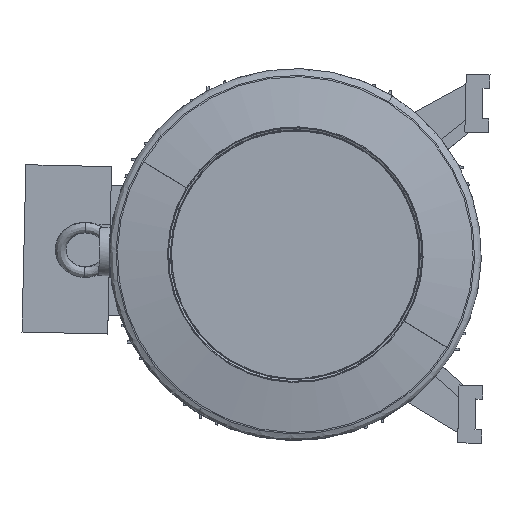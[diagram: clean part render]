
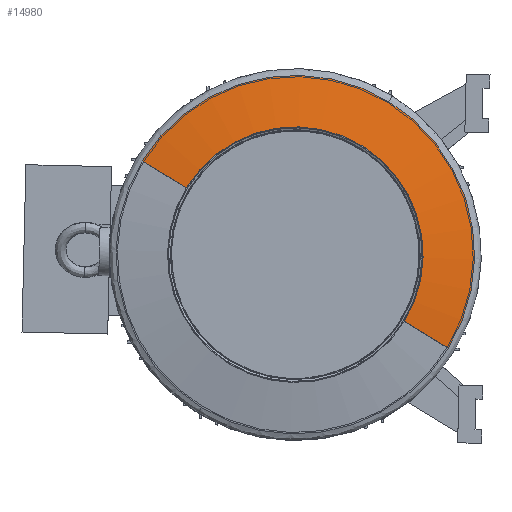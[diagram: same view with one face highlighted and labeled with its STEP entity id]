
A CAD part, left-side view. The second image highlights one B-rep face of the part: STEP entity #14980.
In plain terms, the highlighted conical face has half-angle 80 degrees and reference radius 263.584 mm.
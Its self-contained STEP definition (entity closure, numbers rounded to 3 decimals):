
#3201 = EDGE_LOOP ( 'NONE', ( #11418, #11409, #11391, #11342, #11343, #11368 ) ) ;
#4585 = DIRECTION ( 'NONE',  ( -1., 0., 0. ) ) ;
#4590 = DIRECTION ( 'NONE',  ( 0., -1., 0. ) ) ;
#4608 = CARTESIAN_POINT ( 'NONE',  ( 234.595, 0., 0. ) ) ;
#7510 = AXIS2_PLACEMENT_3D ( 'NONE', #19266, #19268, #19269 ) ;
#7511 = AXIS2_PLACEMENT_3D ( 'NONE', #19270, #19271, #19272 ) ;
#10842 = VECTOR ( 'NONE', #18620, 1000. ) ;
#10852 = LINE ( 'NONE', #18618, #10842 ) ;
#10888 = CIRCLE ( 'NONE', #7510, 187.56 ) ;
#10896 = LINE ( 'NONE', #19007, #10898 ) ;
#10898 = VECTOR ( 'NONE', #19215, 1000. ) ;
#10929 = CIRCLE ( 'NONE', #7511, 263.584 ) ;
#11342 = ORIENTED_EDGE ( 'NONE', *, *, #19491, .F. ) ;
#11343 = ORIENTED_EDGE ( 'NONE', *, *, #22463, .F. ) ;
#11368 = ORIENTED_EDGE ( 'NONE', *, *, #19434, .F. ) ;
#11391 = ORIENTED_EDGE ( 'NONE', *, *, #19465, .T. ) ;
#11409 = ORIENTED_EDGE ( 'NONE', *, *, #19489, .T. ) ;
#11418 = ORIENTED_EDGE ( 'NONE', *, *, #22392, .T. ) ;
#12632 = AXIS2_PLACEMENT_3D ( 'NONE', #25356, #25322, #25313 ) ;
#12638 = AXIS2_PLACEMENT_3D ( 'NONE', #25010, #24992, #24989 ) ;
#14980 = ADVANCED_FACE ( 'NONE', ( #20746 ), #20708, .T. ) ;
#17483 = CIRCLE ( 'NONE', #12638, 187.56 ) ;
#17526 = VERTEX_POINT ( 'NONE', #18275 ) ;
#17589 = VERTEX_POINT ( 'NONE', #18317 ) ;
#17606 = VERTEX_POINT ( 'NONE', #18304 ) ;
#17626 = VERTEX_POINT ( 'NONE', #18341 ) ;
#17629 = VERTEX_POINT ( 'NONE', #18332 ) ;
#17633 = VERTEX_POINT ( 'NONE', #18336 ) ;
#17819 = CIRCLE ( 'NONE', #12632, 263.584 ) ;
#18275 = CARTESIAN_POINT ( 'NONE',  ( 234.595, -263.584, 0. ) ) ;
#18304 = CARTESIAN_POINT ( 'NONE',  ( 248., -187.56, 0. ) ) ;
#18317 = CARTESIAN_POINT ( 'NONE',  ( 234.595, 0., 263.584 ) ) ;
#18332 = CARTESIAN_POINT ( 'NONE',  ( 248., 187.56, 0. ) ) ;
#18336 = CARTESIAN_POINT ( 'NONE',  ( 234.595, 263.584, 0. ) ) ;
#18341 = CARTESIAN_POINT ( 'NONE',  ( 248., 0., 187.56 ) ) ;
#18618 = CARTESIAN_POINT ( 'NONE',  ( 234.595, -263.584, 0. ) ) ;
#18620 = DIRECTION ( 'NONE',  ( -0.174, -0.985, 0. ) ) ;
#19007 = CARTESIAN_POINT ( 'NONE',  ( 234.595, 263.584, 0. ) ) ;
#19215 = DIRECTION ( 'NONE',  ( -0.174, 0.985, 0. ) ) ;
#19266 = CARTESIAN_POINT ( 'NONE',  ( 248., 0., 0. ) ) ;
#19268 = DIRECTION ( 'NONE',  ( -1., 0., 0. ) ) ;
#19269 = DIRECTION ( 'NONE',  ( 0., 0., 1. ) ) ;
#19270 = CARTESIAN_POINT ( 'NONE',  ( 234.595, 0., 0. ) ) ;
#19271 = DIRECTION ( 'NONE',  ( -1., 0., 0. ) ) ;
#19272 = DIRECTION ( 'NONE',  ( 0., 0., 1. ) ) ;
#19434 = EDGE_CURVE ( 'NONE', #17606, #17526, #10852, .T. ) ;
#19465 = EDGE_CURVE ( 'NONE', #17629, #17633, #10896, .T. ) ;
#19489 = EDGE_CURVE ( 'NONE', #17626, #17629, #10888, .T. ) ;
#19491 = EDGE_CURVE ( 'NONE', #17589, #17633, #10929, .T. ) ;
#20708 = CONICAL_SURFACE ( 'NONE', #22748, 263.584, 1.396 ) ;
#20746 = FACE_OUTER_BOUND ( 'NONE', #3201, .T. ) ;
#22392 = EDGE_CURVE ( 'NONE', #17606, #17626, #17483, .T. ) ;
#22463 = EDGE_CURVE ( 'NONE', #17526, #17589, #17819, .T. ) ;
#22748 = AXIS2_PLACEMENT_3D ( 'NONE', #4608, #4585, #4590 ) ;
#24989 = DIRECTION ( 'NONE',  ( 0., 0., 1. ) ) ;
#24992 = DIRECTION ( 'NONE',  ( -1., 0., 0. ) ) ;
#25010 = CARTESIAN_POINT ( 'NONE',  ( 248., 0., 0. ) ) ;
#25313 = DIRECTION ( 'NONE',  ( 0., 0., 1. ) ) ;
#25322 = DIRECTION ( 'NONE',  ( -1., 0., 0. ) ) ;
#25356 = CARTESIAN_POINT ( 'NONE',  ( 234.595, 0., 0. ) ) ;
